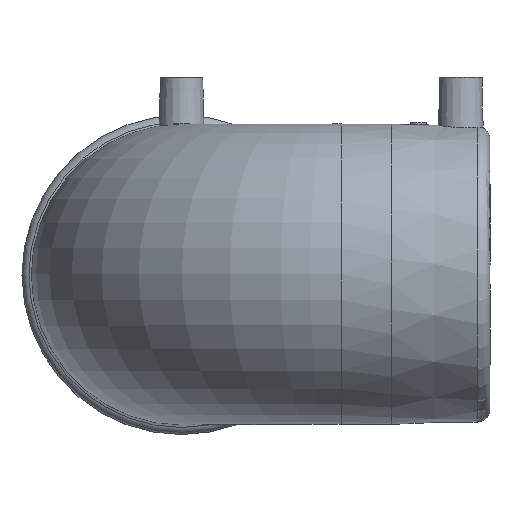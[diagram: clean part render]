
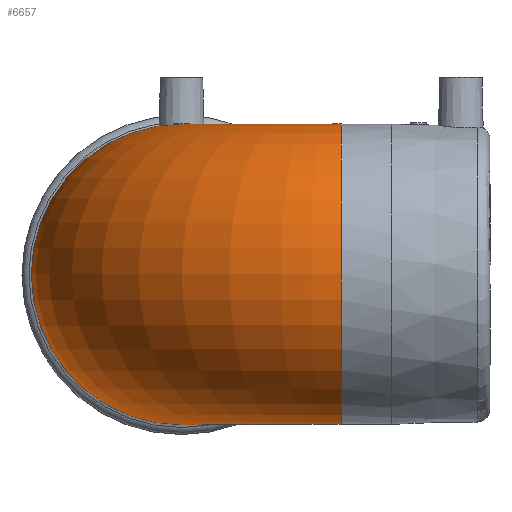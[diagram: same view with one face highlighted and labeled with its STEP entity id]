
A CAD part, top view. The second image highlights one B-rep face of the part: STEP entity #6657.
In plain terms, the highlighted toroidal (fillet/blend) face has major radius 60 mm and minor radius 56.5 mm.
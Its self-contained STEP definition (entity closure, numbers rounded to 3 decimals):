
#533=TOROIDAL_SURFACE('',#8442,60.,56.5);
#561=CIRCLE('',#8434,56.5);
#563=CIRCLE('',#8438,56.5);
#909=ORIENTED_EDGE('',*,*,#3088,.F.);
#910=ORIENTED_EDGE('',*,*,#3090,.T.);
#3088=EDGE_CURVE('',#4182,#4182,#561,.F.);
#3090=EDGE_CURVE('',#4184,#4184,#563,.F.);
#4182=VERTEX_POINT('',#11139);
#4184=VERTEX_POINT('',#11145);
#5555=EDGE_LOOP('',(#909));
#5556=EDGE_LOOP('',(#910));
#6064=FACE_BOUND('',#5555,.T.);
#6065=FACE_BOUND('',#5556,.T.);
#6657=ADVANCED_FACE('',(#6064,#6065),#533,.T.);
#8434=AXIS2_PLACEMENT_3D('',#11138,#9317,#9318);
#8438=AXIS2_PLACEMENT_3D('',#11144,#9325,#9326);
#8442=AXIS2_PLACEMENT_3D('',#11164,#9333,#9334);
#9317=DIRECTION('',(-1.,0.,0.));
#9318=DIRECTION('',(0.,0.,-1.));
#9325=DIRECTION('',(0.,0.,-1.));
#9326=DIRECTION('',(1.,0.,0.));
#9333=DIRECTION('',(0.,1.,0.));
#9334=DIRECTION('',(0.,0.,1.));
#11138=CARTESIAN_POINT('',(60.,0.,116.));
#11139=CARTESIAN_POINT('',(60.,0.,59.5));
#11144=CARTESIAN_POINT('',(0.,0.,56.));
#11145=CARTESIAN_POINT('',(56.5,0.,56.));
#11164=CARTESIAN_POINT('',(60.,0.,56.));
